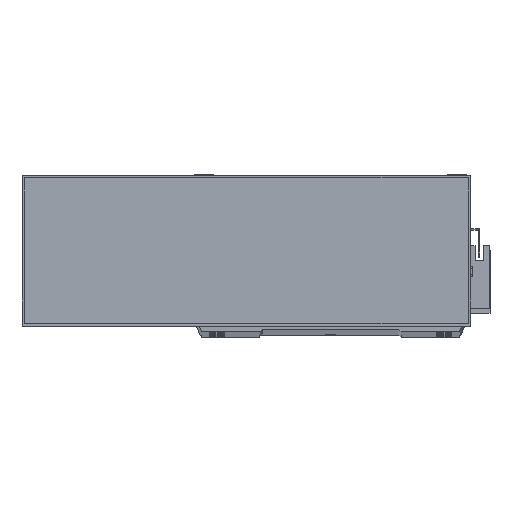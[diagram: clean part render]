
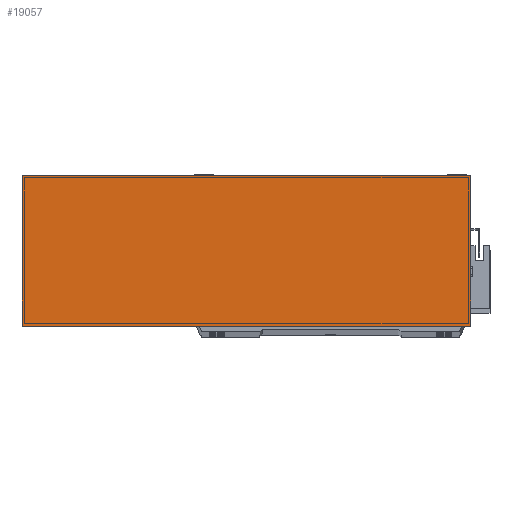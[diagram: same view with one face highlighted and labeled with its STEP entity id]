
A CAD part, top view. The second image highlights one B-rep face of the part: STEP entity #19057.
In plain terms, the highlighted planar face has unit normal (0, 0, 1).
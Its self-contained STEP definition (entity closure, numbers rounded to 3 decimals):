
#956 = VERTEX_POINT ( 'NONE', #29403 ) ;
#1359 = VECTOR ( 'NONE', #12531, 1000. ) ;
#1660 = DIRECTION ( 'NONE',  ( 0., 1., 0. ) ) ;
#1761 = DIRECTION ( 'NONE',  ( -1., 0., 0. ) ) ;
#1975 = DIRECTION ( 'NONE',  ( -1., 0., 0. ) ) ;
#2762 = LINE ( 'NONE', #3288, #28587 ) ;
#3288 = CARTESIAN_POINT ( 'NONE',  ( 0., 0., 50. ) ) ;
#6368 = EDGE_CURVE ( 'NONE', #11699, #956, #2762, .T. ) ;
#8024 = EDGE_CURVE ( 'NONE', #15266, #11699, #20728, .T. ) ;
#9819 = AXIS2_PLACEMENT_3D ( 'NONE', #25969, #16343, #1761 ) ;
#10696 = LINE ( 'NONE', #31031, #23571 ) ;
#11225 = CARTESIAN_POINT ( 'NONE',  ( 0., 0., 50. ) ) ;
#11233 = EDGE_CURVE ( 'NONE', #12458, #15266, #10696, .T. ) ;
#11356 = CARTESIAN_POINT ( 'NONE',  ( 277., 0., 50. ) ) ;
#11699 = VERTEX_POINT ( 'NONE', #11225 ) ;
#12458 = VERTEX_POINT ( 'NONE', #30046 ) ;
#12531 = DIRECTION ( 'NONE',  ( 0., -1., 0. ) ) ;
#15266 = VERTEX_POINT ( 'NONE', #24536 ) ;
#15533 = VECTOR ( 'NONE', #1660, 1000. ) ;
#16043 = ORIENTED_EDGE ( 'NONE', *, *, #6368, .T. ) ;
#16131 = ORIENTED_EDGE ( 'NONE', *, *, #8024, .T. ) ;
#16343 = DIRECTION ( 'NONE',  ( 0., 0., -1. ) ) ;
#16682 = EDGE_LOOP ( 'NONE', ( #16131, #16043, #27731, #17770 ) ) ;
#17770 = ORIENTED_EDGE ( 'NONE', *, *, #11233, .T. ) ;
#17866 = DIRECTION ( 'NONE',  ( 1., 0., 0. ) ) ;
#19057 = ADVANCED_FACE ( 'NONE', ( #20837 ), #30834, .F. ) ;
#20728 = LINE ( 'NONE', #27031, #1359 ) ;
#20837 = FACE_OUTER_BOUND ( 'NONE', #16682, .T. ) ;
#23234 = EDGE_CURVE ( 'NONE', #956, #12458, #28403, .T. ) ;
#23571 = VECTOR ( 'NONE', #1975, 1000. ) ;
#24536 = CARTESIAN_POINT ( 'NONE',  ( 0., 93., 50. ) ) ;
#25969 = CARTESIAN_POINT ( 'NONE',  ( 0., 0., 50. ) ) ;
#27031 = CARTESIAN_POINT ( 'NONE',  ( 0., 0., 50. ) ) ;
#27731 = ORIENTED_EDGE ( 'NONE', *, *, #23234, .T. ) ;
#28403 = LINE ( 'NONE', #11356, #15533 ) ;
#28587 = VECTOR ( 'NONE', #17866, 1000. ) ;
#29403 = CARTESIAN_POINT ( 'NONE',  ( 277., 0., 50. ) ) ;
#30046 = CARTESIAN_POINT ( 'NONE',  ( 277., 93., 50. ) ) ;
#30834 = PLANE ( 'NONE',  #9819 ) ;
#31031 = CARTESIAN_POINT ( 'NONE',  ( 0., 93., 50. ) ) ;
